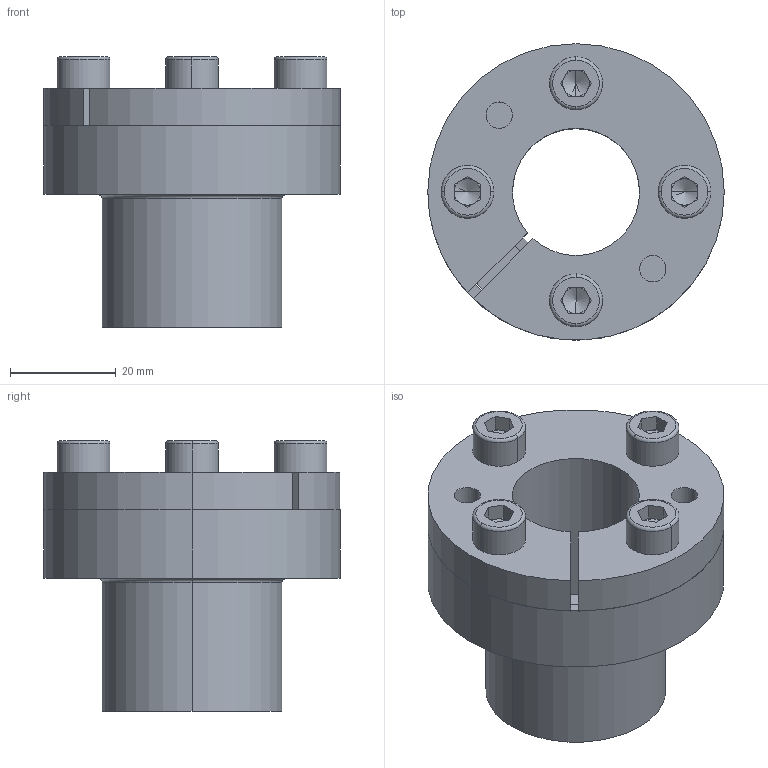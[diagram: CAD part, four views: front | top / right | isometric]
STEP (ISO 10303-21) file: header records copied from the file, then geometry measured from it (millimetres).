
FILE_DESCRIPTION (( 'STEP AP214' ), '1' );
FILE_NAME ('CONEX-B-24x34.step', '2013-04-04T12:41:36', ( 'Pc' ), ( '' ), 'SwSTEP 2.0', 'SolidWorks 2013', '' );
FILE_SCHEMA (( 'AUTOMOTIVE_DESIGN' ));
Length unit declared in the file: millimetre
Products named in the file (1): CONEX-B-24x34
Bounding box: 56 x 56 x 51.11 mm (x, y, z)
Volume: 45121.7 mm3; surface area: 29971.3 mm2
Topology: 7 solids, 7 shells, 174 faces, 414 edges, 250 vertices
Faces by surface type: plane 72, cylinder 52, torus 24, cone 22, bspline 4
Entity records: 7132 total; most frequent: CARTESIAN_POINT 979, DIRECTION 942, ORIENTED_EDGE 812, EDGE_CURVE 406, AXIS2_PLACEMENT_3D 379, VERTEX_POINT 250, CIRCLE 208, EDGE_LOOP 200
